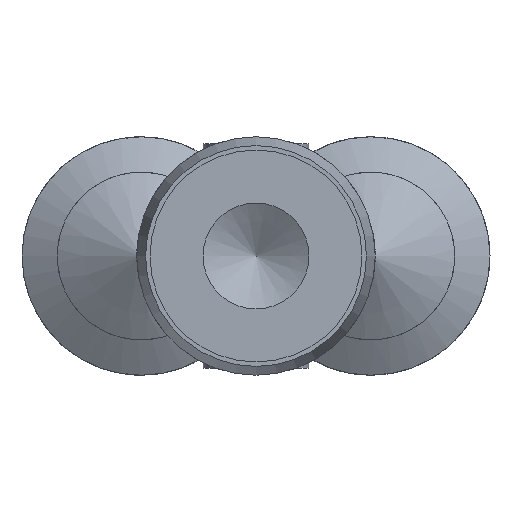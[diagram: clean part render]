
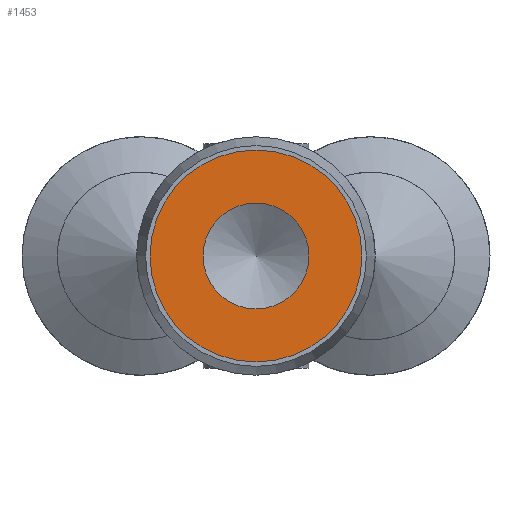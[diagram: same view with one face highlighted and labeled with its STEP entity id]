
A CAD part, left-side view. The second image highlights one B-rep face of the part: STEP entity #1453.
In plain terms, the highlighted planar face has unit normal (-1, 0, 0).
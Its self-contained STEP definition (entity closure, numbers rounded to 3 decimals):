
#147=CARTESIAN_POINT('',(-17.0,-3.0,0.));
#148=VERTEX_POINT('',#147);
#149=CARTESIAN_POINT('',(-17.0,0.0,0.0));
#150=DIRECTION('',(1.0,0.0,0.0));
#151=DIRECTION('',(0.0,1.0,0.0));
#152=AXIS2_PLACEMENT_3D('',#149,#150,#151);
#153=CIRCLE('',#152,3.0);
#154=EDGE_CURVE('',#148,#148,#153,.T.);
#1427=CARTESIAN_POINT('',(-17.0,-6.,0.0));
#1428=VERTEX_POINT('',#1427);
#1429=CARTESIAN_POINT('',(-17.0,0.,0.0));
#1430=DIRECTION('',(-1.0,0.0,0.0));
#1431=DIRECTION('',(0.0,-1.0,0.0));
#1432=AXIS2_PLACEMENT_3D('',#1429,#1430,#1431);
#1433=CIRCLE('',#1432,6.0);
#1434=EDGE_CURVE('',#1428,#1428,#1433,.T.);
#1442=CARTESIAN_POINT('',(-17.0,-3.,0.0));
#1443=DIRECTION('',(-1.0,0.0,0.0));
#1444=DIRECTION('',(0.0,0.0,-1.0));
#1445=AXIS2_PLACEMENT_3D('',#1442,#1443,#1444);
#1446=PLANE('',#1445);
#1447=ORIENTED_EDGE('',*,*,#1434,.T.);
#1448=EDGE_LOOP('',(#1447));
#1449=FACE_OUTER_BOUND('',#1448,.T.);
#1450=ORIENTED_EDGE('',*,*,#154,.T.);
#1451=EDGE_LOOP('',(#1450));
#1452=FACE_BOUND('',#1451,.T.);
#1453=ADVANCED_FACE('',(#1449,#1452),#1446,.T.);
